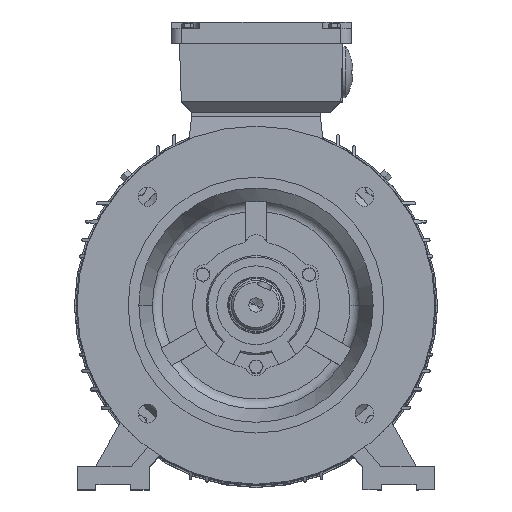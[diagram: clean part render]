
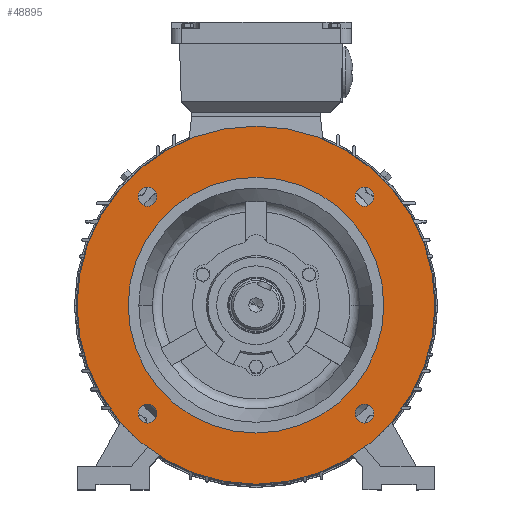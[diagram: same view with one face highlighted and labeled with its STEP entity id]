
A CAD part, top view. The second image highlights one B-rep face of the part: STEP entity #48895.
In plain terms, the highlighted planar face has unit normal (0, 0, 1) as drawn and (-1, 0, 0) by its records, which use the part's own axes.
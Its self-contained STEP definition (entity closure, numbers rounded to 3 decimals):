
#6856 = ORIENTED_EDGE ( 'NONE', *, *, #42305, .F. ) ;
#6860 = ORIENTED_EDGE ( 'NONE', *, *, #42781, .F. ) ;
#6865 = ORIENTED_EDGE ( 'NONE', *, *, #42344, .F. ) ;
#6869 = ORIENTED_EDGE ( 'NONE', *, *, #42785, .F. ) ;
#6873 = ORIENTED_EDGE ( 'NONE', *, *, #42502, .F. ) ;
#6876 = ORIENTED_EDGE ( 'NONE', *, *, #42788, .F. ) ;
#6879 = ORIENTED_EDGE ( 'NONE', *, *, #42434, .T. ) ;
#6883 = ORIENTED_EDGE ( 'NONE', *, *, #42791, .T. ) ;
#6888 = ORIENTED_EDGE ( 'NONE', *, *, #42331, .F. ) ;
#6892 = ORIENTED_EDGE ( 'NONE', *, *, #42795, .F. ) ;
#6896 = ORIENTED_EDGE ( 'NONE', *, *, #42280, .F. ) ;
#6900 = ORIENTED_EDGE ( 'NONE', *, *, #42797, .F. ) ;
#11795 = EDGE_LOOP ( 'NONE', ( #6896, #6900 ) ) ;
#21226 = EDGE_LOOP ( 'NONE', ( #6873, #6876 ) ) ;
#21235 = EDGE_LOOP ( 'NONE', ( #6856, #6860 ) ) ;
#21285 = EDGE_LOOP ( 'NONE', ( #6865, #6869 ) ) ;
#27234 = EDGE_LOOP ( 'NONE', ( #6888, #6892 ) ) ;
#36179 = VERTEX_POINT ( 'NONE', #79162 ) ;
#36186 = VERTEX_POINT ( 'NONE', #79168 ) ;
#36202 = VERTEX_POINT ( 'NONE', #79173 ) ;
#36211 = VERTEX_POINT ( 'NONE', #79172 ) ;
#36228 = VERTEX_POINT ( 'NONE', #79178 ) ;
#36237 = VERTEX_POINT ( 'NONE', #79184 ) ;
#36241 = VERTEX_POINT ( 'NONE', #79181 ) ;
#36243 = VERTEX_POINT ( 'NONE', #79186 ) ;
#36346 = VERTEX_POINT ( 'NONE', #85893 ) ;
#36350 = VERTEX_POINT ( 'NONE', #85891 ) ;
#36385 = VERTEX_POINT ( 'NONE', #85906 ) ;
#36409 = VERTEX_POINT ( 'NONE', #85913 ) ;
#42280 = EDGE_CURVE ( 'NONE', #36179, #36186, #79231, .T. ) ;
#42305 = EDGE_CURVE ( 'NONE', #36202, #36211, #79243, .T. ) ;
#42331 = EDGE_CURVE ( 'NONE', #36228, #36237, #79255, .T. ) ;
#42344 = EDGE_CURVE ( 'NONE', #36241, #36243, #79260, .T. ) ;
#42434 = EDGE_CURVE ( 'NONE', #36346, #36350, #79306, .T. ) ;
#42502 = EDGE_CURVE ( 'NONE', #36409, #36385, #79329, .T. ) ;
#42781 = EDGE_CURVE ( 'NONE', #36211, #36202, #79445, .T. ) ;
#42785 = EDGE_CURVE ( 'NONE', #36243, #36241, #79446, .T. ) ;
#42788 = EDGE_CURVE ( 'NONE', #36385, #36409, #79447, .T. ) ;
#42791 = EDGE_CURVE ( 'NONE', #36350, #36346, #79448, .T. ) ;
#42795 = EDGE_CURVE ( 'NONE', #36237, #36228, #79449, .T. ) ;
#42797 = EDGE_CURVE ( 'NONE', #36186, #36179, #79451, .T. ) ;
#48895 = ADVANCED_FACE ( 'NONE', ( #62421, #62466, #62448, #62463, #62457, #62469 ), #66293, .F. ) ;
#62421 = FACE_BOUND ( 'NONE', #21235, .T. ) ;
#62448 = FACE_BOUND ( 'NONE', #21226, .T. ) ;
#62457 = FACE_BOUND ( 'NONE', #27234, .T. ) ;
#62463 = FACE_OUTER_BOUND ( 'NONE', #95894, .T. ) ;
#62466 = FACE_BOUND ( 'NONE', #21285, .T. ) ;
#62469 = FACE_BOUND ( 'NONE', #11795, .T. ) ;
#66289 = DIRECTION ( 'NONE',  ( 1., 0., 0. ) ) ;
#66293 = PLANE ( 'NONE',  #69341 ) ;
#66294 = CARTESIAN_POINT ( 'NONE',  ( 5., 125., 0. ) ) ;
#66296 = DIRECTION ( 'NONE',  ( 0., 0., -1. ) ) ;
#69341 = AXIS2_PLACEMENT_3D ( 'NONE', #66294, #66289, #66296 ) ;
#79162 = CARTESIAN_POINT ( 'NONE',  ( 5., 106.066, -115.316 ) ) ;
#79168 = CARTESIAN_POINT ( 'NONE',  ( 5., 106.066, -96.816 ) ) ;
#79172 = CARTESIAN_POINT ( 'NONE',  ( 5., -106.066, -96.816 ) ) ;
#79173 = CARTESIAN_POINT ( 'NONE',  ( 5., -106.066, -115.316 ) ) ;
#79178 = CARTESIAN_POINT ( 'NONE',  ( 5., -106.066, 96.816 ) ) ;
#79181 = CARTESIAN_POINT ( 'NONE',  ( 5., 106.066, 96.816 ) ) ;
#79184 = CARTESIAN_POINT ( 'NONE',  ( 5., -106.066, 115.316 ) ) ;
#79186 = CARTESIAN_POINT ( 'NONE',  ( 5., 106.066, 115.316 ) ) ;
#79231 = CIRCLE ( 'NONE', #90478, 9.25 ) ;
#79243 = CIRCLE ( 'NONE', #90487, 9.25 ) ;
#79255 = CIRCLE ( 'NONE', #90494, 9.25 ) ;
#79260 = CIRCLE ( 'NONE', #90498, 9.25 ) ;
#79306 = CIRCLE ( 'NONE', #90525, 175. ) ;
#79329 = CIRCLE ( 'NONE', #90549, 125. ) ;
#79445 = CIRCLE ( 'NONE', #90658, 9.25 ) ;
#79446 = CIRCLE ( 'NONE', #90659, 9.25 ) ;
#79447 = CIRCLE ( 'NONE', #90662, 125. ) ;
#79448 = CIRCLE ( 'NONE', #90664, 175. ) ;
#79449 = CIRCLE ( 'NONE', #90666, 9.25 ) ;
#79451 = CIRCLE ( 'NONE', #90668, 9.25 ) ;
#85891 = CARTESIAN_POINT ( 'NONE',  ( 5., 0., -175. ) ) ;
#85893 = CARTESIAN_POINT ( 'NONE',  ( 5., 0., 175. ) ) ;
#85906 = CARTESIAN_POINT ( 'NONE',  ( 5., 0., -125. ) ) ;
#85913 = CARTESIAN_POINT ( 'NONE',  ( 5., 0., 125. ) ) ;
#90478 = AXIS2_PLACEMENT_3D ( 'NONE', #93278, #93280, #93282 ) ;
#90487 = AXIS2_PLACEMENT_3D ( 'NONE', #93301, #93302, #93303 ) ;
#90494 = AXIS2_PLACEMENT_3D ( 'NONE', #93321, #93322, #93323 ) ;
#90498 = AXIS2_PLACEMENT_3D ( 'NONE', #93331, #93332, #93333 ) ;
#90525 = AXIS2_PLACEMENT_3D ( 'NONE', #93407, #93408, #93409 ) ;
#90549 = AXIS2_PLACEMENT_3D ( 'NONE', #93497, #93498, #93499 ) ;
#90658 = AXIS2_PLACEMENT_3D ( 'NONE', #93928, #93930, #93932 ) ;
#90659 = AXIS2_PLACEMENT_3D ( 'NONE', #93935, #93937, #93939 ) ;
#90662 = AXIS2_PLACEMENT_3D ( 'NONE', #93944, #93946, #93947 ) ;
#90664 = AXIS2_PLACEMENT_3D ( 'NONE', #93951, #93953, #93955 ) ;
#90666 = AXIS2_PLACEMENT_3D ( 'NONE', #93958, #93960, #93962 ) ;
#90668 = AXIS2_PLACEMENT_3D ( 'NONE', #93968, #93969, #93971 ) ;
#93278 = CARTESIAN_POINT ( 'NONE',  ( 5., 106.066, -106.066 ) ) ;
#93280 = DIRECTION ( 'NONE',  ( -1., 0., 0. ) ) ;
#93282 = DIRECTION ( 'NONE',  ( 0., 0., -1. ) ) ;
#93301 = CARTESIAN_POINT ( 'NONE',  ( 5., -106.066, -106.066 ) ) ;
#93302 = DIRECTION ( 'NONE',  ( -1., 0., 0. ) ) ;
#93303 = DIRECTION ( 'NONE',  ( 0., 0., -1. ) ) ;
#93321 = CARTESIAN_POINT ( 'NONE',  ( 5., -106.066, 106.066 ) ) ;
#93322 = DIRECTION ( 'NONE',  ( -1., 0., 0. ) ) ;
#93323 = DIRECTION ( 'NONE',  ( 0., 0., -1. ) ) ;
#93331 = CARTESIAN_POINT ( 'NONE',  ( 5., 106.066, 106.066 ) ) ;
#93332 = DIRECTION ( 'NONE',  ( -1., 0., 0. ) ) ;
#93333 = DIRECTION ( 'NONE',  ( 0., 0., -1. ) ) ;
#93407 = CARTESIAN_POINT ( 'NONE',  ( 5., 0., 0. ) ) ;
#93408 = DIRECTION ( 'NONE',  ( -1., 0., 0. ) ) ;
#93409 = DIRECTION ( 'NONE',  ( 0., 0., 1. ) ) ;
#93497 = CARTESIAN_POINT ( 'NONE',  ( 5., 0., 0. ) ) ;
#93498 = DIRECTION ( 'NONE',  ( -1., 0., 0. ) ) ;
#93499 = DIRECTION ( 'NONE',  ( 0., 0., 1. ) ) ;
#93928 = CARTESIAN_POINT ( 'NONE',  ( 5., -106.066, -106.066 ) ) ;
#93930 = DIRECTION ( 'NONE',  ( -1., 0., 0. ) ) ;
#93932 = DIRECTION ( 'NONE',  ( 0., 0., -1. ) ) ;
#93935 = CARTESIAN_POINT ( 'NONE',  ( 5., 106.066, 106.066 ) ) ;
#93937 = DIRECTION ( 'NONE',  ( -1., 0., 0. ) ) ;
#93939 = DIRECTION ( 'NONE',  ( 0., 0., -1. ) ) ;
#93944 = CARTESIAN_POINT ( 'NONE',  ( 5., 0., 0. ) ) ;
#93946 = DIRECTION ( 'NONE',  ( -1., 0., 0. ) ) ;
#93947 = DIRECTION ( 'NONE',  ( 0., 0., 1. ) ) ;
#93951 = CARTESIAN_POINT ( 'NONE',  ( 5., 0., 0. ) ) ;
#93953 = DIRECTION ( 'NONE',  ( -1., 0., 0. ) ) ;
#93955 = DIRECTION ( 'NONE',  ( 0., 0., 1. ) ) ;
#93958 = CARTESIAN_POINT ( 'NONE',  ( 5., -106.066, 106.066 ) ) ;
#93960 = DIRECTION ( 'NONE',  ( -1., 0., 0. ) ) ;
#93962 = DIRECTION ( 'NONE',  ( 0., 0., -1. ) ) ;
#93968 = CARTESIAN_POINT ( 'NONE',  ( 5., 106.066, -106.066 ) ) ;
#93969 = DIRECTION ( 'NONE',  ( -1., 0., 0. ) ) ;
#93971 = DIRECTION ( 'NONE',  ( 0., 0., -1. ) ) ;
#95894 = EDGE_LOOP ( 'NONE', ( #6879, #6883 ) ) ;
